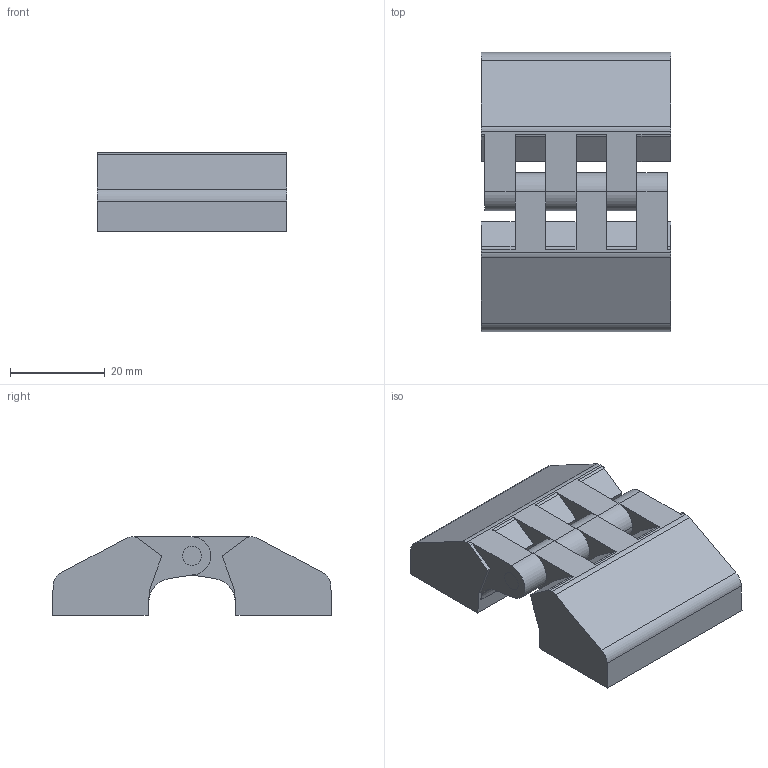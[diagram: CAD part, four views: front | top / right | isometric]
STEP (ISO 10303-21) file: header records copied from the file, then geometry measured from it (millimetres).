
FILE_DESCRIPTION (( 'STEP AP203' ), '1' );
FILE_NAME ('efh6040ss.STEP', '2021-10-25T02:34:43', ( '' ), ( '' ), 'SwSTEP 2.0', 'SolidWorks 2020', '' );
FILE_SCHEMA (( 'CONFIG_CONTROL_DESIGN' ));
Length unit declared in the file: millimetre
Products named in the file (4): efh6040ss_03; efh6040ss_02; efh6040ss_01; efh6040ss
Assembly tree (3 placements, depth 2):
  efh6040ss
    efh6040ss_01
    efh6040ss_02
    efh6040ss_03
Bounding box: 40 x 59 x 16.5 mm (x, y, z)
Volume: 25567.8 mm3; surface area: 9521.1 mm2
Topology: 3 solids, 3 shells, 102 faces, 276 edges, 184 vertices
Faces by surface type: plane 54, cylinder 48
Entity records: 3674 total; most frequent: DIRECTION 588, CARTESIAN_POINT 568, ORIENTED_EDGE 552, EDGE_CURVE 276, AXIS2_PLACEMENT_3D 204, VERTEX_POINT 184, VECTOR 180, LINE 180
